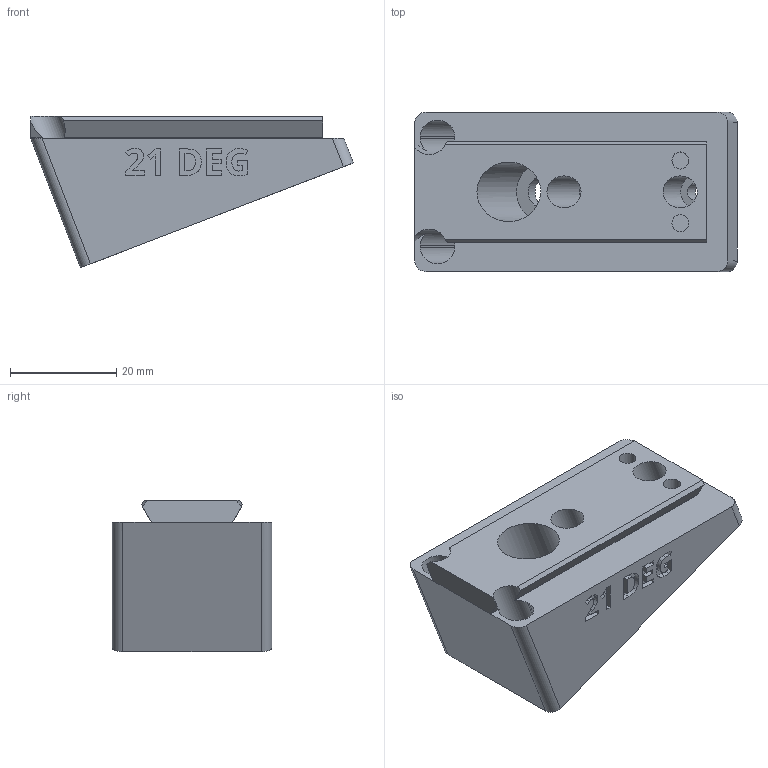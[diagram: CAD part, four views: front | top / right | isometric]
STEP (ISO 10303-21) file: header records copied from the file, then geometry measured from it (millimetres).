
FILE_DESCRIPTION(/* description */ ('STEP AP242 Edition 2','CAx-IF Rec.Pracs.---Representation and Presentation of Product Manufacturing Information (PMI)---4.0---2014-10-13','CAx-IF Rec.Pracs.---3D Tessellated Geometry---0.4---2014-09-14','2;1','CAx-IF Rec.Pracs.---User Defined Attributes---1.5---2016-08-15'),/* implementation_level */ '2;1');
FILE_NAME(/* name */ 'Camera Wedges - CAMERA MOUNTING WEDGE, POS, 21 DEG',/* time_stamp */ '2026-07-08T20:38:30Z',/* author */ (''),/* organization */ (''),/* preprocessor_version */ 'ST-DEVELOPER v20',/* originating_system */ 'ONSHAPE BY PTC INC, 1.217',/* authorisation */ ' ');
FILE_SCHEMA (('AP242_MANAGED_MODEL_BASED_3D_ENGINEERING_MIM_LF { 1 0 10303 442 3 1 4 }'));
Length unit declared in the file: metre
Products named in the file (1): CAMERA MOUNTING WEDGE, POS, 21 DEG
Bounding box: 60.7 x 30 x 28.48 mm (x, y, z)
Volume: 24378.9 mm3; surface area: 9252.8 mm2
Topology: 1 solids, 1 shells, 241 faces, 664 edges, 443 vertices
Faces by surface type: plane 143, cylinder 52, bspline 46
Full cylindrical faces by diameter (mm): 3.2 x4, 6 x2, 6.4 x1, 11.2 x1
Entity records: 7781 total; most frequent: CARTESIAN_POINT 1841, ORIENTED_EDGE 1306, DIRECTION 1069, EDGE_CURVE 653, LINE 445, VECTOR 445, VERTEX_POINT 440, AXIS2_PLACEMENT_3D 312
